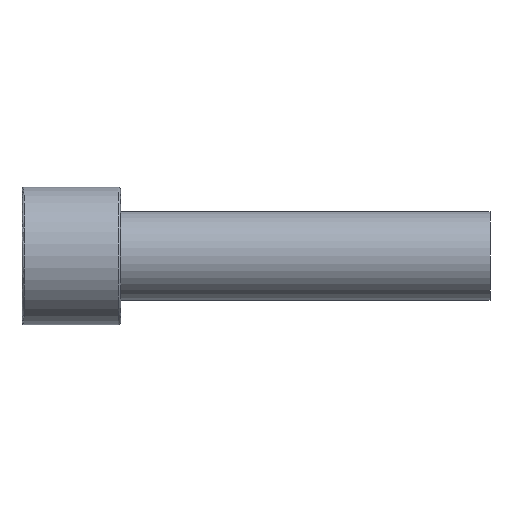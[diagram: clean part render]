
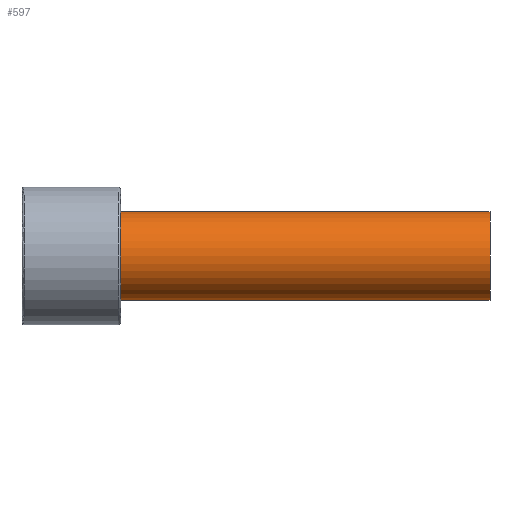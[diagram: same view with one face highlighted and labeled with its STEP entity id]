
A CAD part, front view. The second image highlights one B-rep face of the part: STEP entity #597.
In plain terms, the highlighted cylindrical face has radius 9 mm (diameter 18 mm), a partial arc.
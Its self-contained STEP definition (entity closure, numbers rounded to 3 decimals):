
#431=CARTESIAN_POINT('Vertex',(95.,0.,9.)) ;
#434=CARTESIAN_POINT('Axis2P3D Location',(95.,0.,0.)) ;
#438=CARTESIAN_POINT('Vertex',(95.,-9.,0.)) ;
#441=CARTESIAN_POINT('Axis2P3D Location',(95.,0.,0.)) ;
#445=CARTESIAN_POINT('Vertex',(95.,0.,-9.)) ;
#537=CARTESIAN_POINT('Line Origine',(95.,0.,9.)) ;
#541=CARTESIAN_POINT('Vertex',(20.,0.,9.)) ;
#544=CARTESIAN_POINT('Line Origine',(95.,0.,-9.)) ;
#548=CARTESIAN_POINT('Vertex',(20.,0.,-9.)) ;
#572=CARTESIAN_POINT('Axis2P3D Location',(95.,0.,0.)) ;
#577=CARTESIAN_POINT('Axis2P3D Location',(20.,0.,0.)) ;
#581=CARTESIAN_POINT('Vertex',(20.,-9.,0.)) ;
#584=CARTESIAN_POINT('Axis2P3D Location',(20.,0.,0.)) ;
#435=DIRECTION('Axis2P3D Direction',(1.,0.,-0.)) ;
#442=DIRECTION('Axis2P3D Direction',(1.,0.,-0.)) ;
#538=DIRECTION('Vector Direction',(-1.,0.,0.)) ;
#545=DIRECTION('Vector Direction',(-1.,0.,0.)) ;
#573=DIRECTION('Axis2P3D Direction',(-1.,-0.,-0.)) ;
#574=DIRECTION('Axis2P3D XDirection',(0.,0.,-1.)) ;
#578=DIRECTION('Axis2P3D Direction',(-1.,-0.,-0.)) ;
#585=DIRECTION('Axis2P3D Direction',(-1.,-0.,-0.)) ;
#436=AXIS2_PLACEMENT_3D('Circle Axis2P3D',#434,#435,$) ;
#443=AXIS2_PLACEMENT_3D('Circle Axis2P3D',#441,#442,$) ;
#575=AXIS2_PLACEMENT_3D('Cylinder Axis2P3D',#572,#573,#574) ;
#579=AXIS2_PLACEMENT_3D('Circle Axis2P3D',#577,#578,$) ;
#586=AXIS2_PLACEMENT_3D('Circle Axis2P3D',#584,#585,$) ;
#590=ORIENTED_EDGE('',*,*,#550,.T.) ;
#591=ORIENTED_EDGE('',*,*,#447,.F.) ;
#592=ORIENTED_EDGE('',*,*,#440,.F.) ;
#593=ORIENTED_EDGE('',*,*,#543,.T.) ;
#594=ORIENTED_EDGE('',*,*,#583,.T.) ;
#595=ORIENTED_EDGE('',*,*,#588,.T.) ;
#539=VECTOR('Line Direction',#538,1.) ;
#546=VECTOR('Line Direction',#545,1.) ;
#597=ADVANCED_FACE('367F-18X95',(#596),#576,.T.) ;
#437=CIRCLE('generated circle',#436,9.) ;
#444=CIRCLE('generated circle',#443,9.) ;
#580=CIRCLE('generated circle',#579,9.) ;
#587=CIRCLE('generated circle',#586,9.) ;
#576=CYLINDRICAL_SURFACE('generated cylinder',#575,9.) ;
#440=EDGE_CURVE('',#432,#439,#437,.T.) ;
#447=EDGE_CURVE('',#439,#446,#444,.T.) ;
#543=EDGE_CURVE('',#432,#542,#540,.T.) ;
#550=EDGE_CURVE('',#549,#446,#547,.F.) ;
#583=EDGE_CURVE('',#542,#582,#580,.F.) ;
#588=EDGE_CURVE('',#582,#549,#587,.F.) ;
#589=EDGE_LOOP('',(#590,#591,#592,#593,#594,#595)) ;
#596=FACE_OUTER_BOUND('',#589,.T.) ;
#540=LINE('Line',#537,#539) ;
#547=LINE('Line',#544,#546) ;
#432=VERTEX_POINT('',#431) ;
#439=VERTEX_POINT('',#438) ;
#446=VERTEX_POINT('',#445) ;
#542=VERTEX_POINT('',#541) ;
#549=VERTEX_POINT('',#548) ;
#582=VERTEX_POINT('',#581) ;
